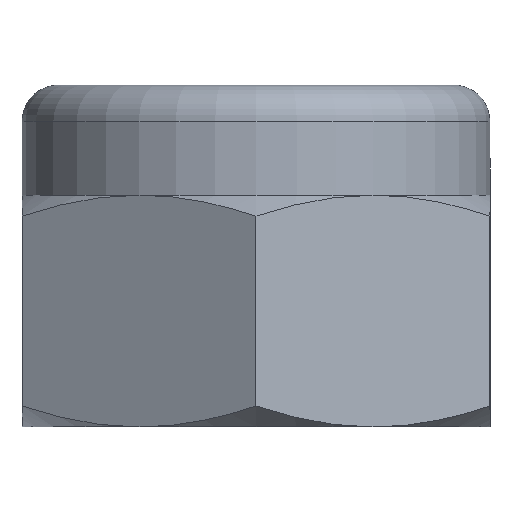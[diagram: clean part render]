
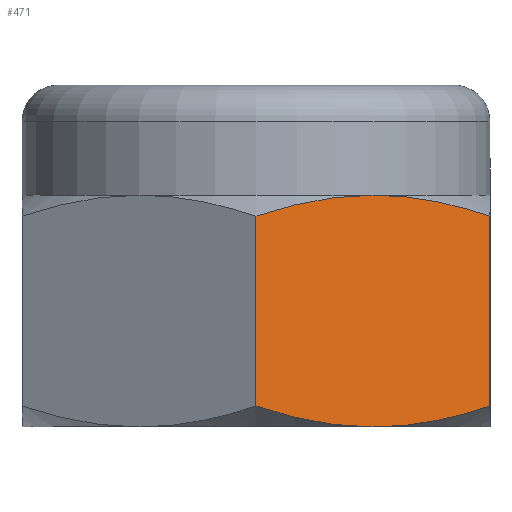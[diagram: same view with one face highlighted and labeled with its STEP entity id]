
A CAD part, front view. The second image highlights one B-rep face of the part: STEP entity #471.
In plain terms, the highlighted planar face has unit normal (0.5, -0.866, 0).
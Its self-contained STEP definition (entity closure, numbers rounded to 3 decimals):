
#3 = CARTESIAN_POINT ( 'NONE',  ( 6.5, -3.753, -6.44 ) ) ;
#17 = CARTESIAN_POINT ( 'NONE',  ( 6.5, -3.753, -0.581 ) ) ;
#20 = VECTOR ( 'NONE', #577, 1000. ) ;
#26 = CARTESIAN_POINT ( 'NONE',  ( 3.25, -5.629, -6.44 ) ) ;
#38 = CARTESIAN_POINT ( 'NONE',  ( 2.697, -5.948, -6.426 ) ) ;
#45 = ORIENTED_EDGE ( 'NONE', *, *, #496, .T. ) ;
#91 = B_SPLINE_CURVE_WITH_KNOTS ( 'NONE', 3,
 ( #425, #684, #434, #103, #361, #567, #110, #557 ),
 .UNSPECIFIED., .F., .F.,
 ( 4, 2, 2, 4 ),
 ( 0.004, 0.005, 0.006, 0.008 ),
 .UNSPECIFIED. ) ;
#100 = VERTEX_POINT ( 'NONE', #172 ) ;
#103 = CARTESIAN_POINT ( 'NONE',  ( 2.149, -6.265, -0.067 ) ) ;
#105 = ORIENTED_EDGE ( 'NONE', *, *, #400, .F. ) ;
#108 = CARTESIAN_POINT ( 'NONE',  ( 3.25, -5.629, -6.44 ) ) ;
#110 = CARTESIAN_POINT ( 'NONE',  ( 0.53, -7.199, -0.404 ) ) ;
#119 = LINE ( 'NONE', #315, #20 ) ;
#151 = B_SPLINE_CURVE_WITH_KNOTS ( 'NONE', 3,
 ( #17, #803, #421, #341, #282, #731 ),
 .UNSPECIFIED., .F., .F.,
 ( 4, 2, 4 ),
 ( 0., 0.002, 0.004 ),
 .UNSPECIFIED. ) ;
#171 = CARTESIAN_POINT ( 'NONE',  ( 2.149, -6.265, -6.373 ) ) ;
#172 = CARTESIAN_POINT ( 'NONE',  ( 3.25, -5.629, 0. ) ) ;
#173 = VERTEX_POINT ( 'NONE', #108 ) ;
#179 = FACE_OUTER_BOUND ( 'NONE', #513, .T. ) ;
#221 = CARTESIAN_POINT ( 'NONE',  ( 5.968, -4.06, -6.037 ) ) ;
#245 = ORIENTED_EDGE ( 'NONE', *, *, #445, .F. ) ;
#282 = CARTESIAN_POINT ( 'NONE',  ( 3.804, -5.309, 0. ) ) ;
#297 = CARTESIAN_POINT ( 'NONE',  ( 3.25, -5.629, -6.44 ) ) ;
#313 = CARTESIAN_POINT ( 'NONE',  ( 2.974, -5.788, -6.44 ) ) ;
#315 = CARTESIAN_POINT ( 'NONE',  ( 0., -7.506, -6.44 ) ) ;
#324 = CARTESIAN_POINT ( 'NONE',  ( 6.5, -3.753, -0.581 ) ) ;
#341 = CARTESIAN_POINT ( 'NONE',  ( 4.351, -4.994, -0.055 ) ) ;
#342 = EDGE_CURVE ( 'NONE', #556, #566, #654, .T. ) ;
#361 = CARTESIAN_POINT ( 'NONE',  ( 1.877, -6.422, -0.106 ) ) ;
#364 = CARTESIAN_POINT ( 'NONE',  ( 0.53, -7.199, -6.036 ) ) ;
#368 = CARTESIAN_POINT ( 'NONE',  ( 0., -7.506, -5.859 ) ) ;
#375 = DIRECTION ( 'NONE',  ( 0.866, 0.5, 0. ) ) ;
#383 = VERTEX_POINT ( 'NONE', #446 ) ;
#400 = EDGE_CURVE ( 'NONE', #527, #383, #119, .T. ) ;
#405 = AXIS2_PLACEMENT_3D ( 'NONE', #749, #563, #375 ) ;
#408 = CARTESIAN_POINT ( 'NONE',  ( 4.351, -4.994, -6.385 ) ) ;
#421 = CARTESIAN_POINT ( 'NONE',  ( 5.433, -4.369, -0.257 ) ) ;
#425 = CARTESIAN_POINT ( 'NONE',  ( 3.25, -5.629, 0. ) ) ;
#434 = CARTESIAN_POINT ( 'NONE',  ( 2.697, -5.948, -0.014 ) ) ;
#445 = EDGE_CURVE ( 'NONE', #173, #527, #705, .T. ) ;
#446 = CARTESIAN_POINT ( 'NONE',  ( 0., -7.506, -0.581 ) ) ;
#471 = ADVANCED_FACE ( 'NONE', ( #179 ), #489, .T. ) ;
#477 = B_SPLINE_CURVE_WITH_KNOTS ( 'NONE', 3,
 ( #738, #221, #666, #408, #480, #26 ),
 .UNSPECIFIED., .F., .F.,
 ( 4, 2, 4 ),
 ( 0., 0.002, 0.004 ),
 .UNSPECIFIED. ) ;
#480 = CARTESIAN_POINT ( 'NONE',  ( 3.804, -5.309, -6.44 ) ) ;
#489 = PLANE ( 'NONE',  #405 ) ;
#496 = EDGE_CURVE ( 'NONE', #100, #383, #91, .T. ) ;
#511 = CARTESIAN_POINT ( 'NONE',  ( 6.5, -3.753, -5.859 ) ) ;
#513 = EDGE_LOOP ( 'NONE', ( #655, #612, #45, #105, #245, #768 ) ) ;
#527 = VERTEX_POINT ( 'NONE', #715 ) ;
#549 = VECTOR ( 'NONE', #842, 1000. ) ;
#556 = VERTEX_POINT ( 'NONE', #511 ) ;
#557 = CARTESIAN_POINT ( 'NONE',  ( 0., -7.506, -0.581 ) ) ;
#563 = DIRECTION ( 'NONE',  ( 0.5, -0.866, 0. ) ) ;
#566 = VERTEX_POINT ( 'NONE', #324 ) ;
#567 = CARTESIAN_POINT ( 'NONE',  ( 1.065, -6.891, -0.258 ) ) ;
#570 = CARTESIAN_POINT ( 'NONE',  ( 1.877, -6.422, -6.334 ) ) ;
#575 = CARTESIAN_POINT ( 'NONE',  ( 1.065, -6.891, -6.182 ) ) ;
#577 = DIRECTION ( 'NONE',  ( 0., 0., 1. ) ) ;
#612 = ORIENTED_EDGE ( 'NONE', *, *, #652, .T. ) ;
#652 = EDGE_CURVE ( 'NONE', #566, #100, #151, .T. ) ;
#654 = LINE ( 'NONE', #3, #549 ) ;
#655 = ORIENTED_EDGE ( 'NONE', *, *, #342, .T. ) ;
#666 = CARTESIAN_POINT ( 'NONE',  ( 5.433, -4.369, -6.183 ) ) ;
#674 = EDGE_CURVE ( 'NONE', #556, #173, #477, .T. ) ;
#684 = CARTESIAN_POINT ( 'NONE',  ( 2.974, -5.788, 0. ) ) ;
#705 = B_SPLINE_CURVE_WITH_KNOTS ( 'NONE', 3,
 ( #297, #313, #38, #171, #570, #575, #364, #368 ),
 .UNSPECIFIED., .F., .F.,
 ( 4, 2, 2, 4 ),
 ( 0.004, 0.005, 0.006, 0.008 ),
 .UNSPECIFIED. ) ;
#715 = CARTESIAN_POINT ( 'NONE',  ( 0., -7.506, -5.859 ) ) ;
#731 = CARTESIAN_POINT ( 'NONE',  ( 3.25, -5.629, 0. ) ) ;
#738 = CARTESIAN_POINT ( 'NONE',  ( 6.5, -3.753, -5.859 ) ) ;
#749 = CARTESIAN_POINT ( 'NONE',  ( 0., -7.506, -6.44 ) ) ;
#768 = ORIENTED_EDGE ( 'NONE', *, *, #674, .F. ) ;
#803 = CARTESIAN_POINT ( 'NONE',  ( 5.968, -4.06, -0.403 ) ) ;
#842 = DIRECTION ( 'NONE',  ( 0., 0., 1. ) ) ;
